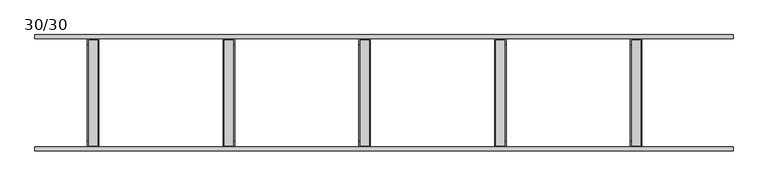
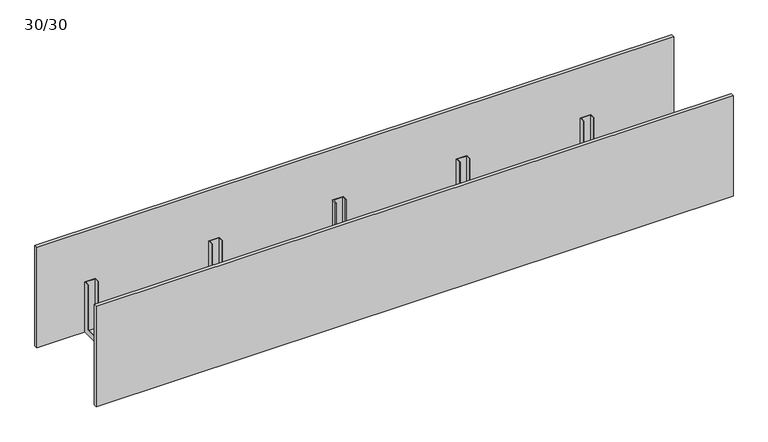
"""IFC4 building model written with IfcOpenShell, lengths in millimetres: proxy geometry, Betoring : 30/30."""

import ifcopenshell
import ifcopenshell.guid

model = None  # the IFC model being written
_history = None  # IfcOwnerHistory: only IFC2X3 demands one
_inside = {}  # id of a spatial element -> (the spatial element, [elements in it])
_under = {}  # id of a project, library or spatial element -> (it, [spatial elements below it])
_declared = {}  # id of a project -> (the project, [libraries it declares])
_typed = {}  # id of a type object -> (the type object, [elements of that type])
_made_of = {}  # id of a material, layer set ... -> (it, [elements and type objects made of it])


def new_model(schema):
    """Start an empty IFC model of exactly this schema.

    Asked for "IFC4X3", IfcOpenShell would pick the latest addendum, in which some entities
    have other attributes; the version numbers below select the first issue.
    IFC2X3 requires an IfcOwnerHistory on every rooted entity: one is made here for all.
    """
    global model, _history
    if schema == "IFC4X3":
        model = ifcopenshell.file(schema_version=(4, 3, 0, 0))
    else:
        model = ifcopenshell.file(schema=schema)
    _inside.clear()
    _under.clear()
    _declared.clear()
    _typed.clear()
    _made_of.clear()
    _history = None
    if model.schema == "IFC2X3":
        org = make("IfcOrganization", Name="unknown")
        user = make(
            "IfcPersonAndOrganization",
            ThePerson=make("IfcPerson", FamilyName="unknown"),
            TheOrganization=org,
        )
        app = make(
            "IfcApplication",
            ApplicationDeveloper=org,
            Version="unknown",
            ApplicationFullName="unknown",
            ApplicationIdentifier="unknown",
        )
        _history = make(
            "IfcOwnerHistory",
            OwningUser=user,
            OwningApplication=app,
            ChangeAction="ADDED",
            CreationDate=0,
        )
    return model


def make(cls, **values):
    """One entity of the class cls with the attributes given. An attribute that is None is left unset."""
    return model.create_entity(
        cls, **{name: value for name, value in values.items() if value is not None}
    )


def rooted(cls, **values):
    """An entity with a GlobalId (a new one), such as an element, a storey or a relation."""
    return make(cls, GlobalId=ifcopenshell.guid.new(), OwnerHistory=_history, **values)


def si_unit(unit_type, name, prefix=None):
    """IfcSIUnit, for example si_unit("LENGTHUNIT", "METRE", prefix="MILLI")."""
    return make("IfcSIUnit", UnitType=unit_type, Prefix=prefix, Name=name)


def assignment(units):
    """IfcUnitAssignment: the units of a project."""
    return None if units is None else make("IfcUnitAssignment", Units=units)


def point(xyz):
    """IfcCartesianPoint."""
    return None if xyz is None else make("IfcCartesianPoint", Coordinates=xyz)


def direction(xyz):
    """IfcDirection."""
    return None if xyz is None else make("IfcDirection", DirectionRatios=xyz)


def frame(location, z_axis=None, x_axis=None):
    """IfcAxis2Placement3D, a coordinate frame: its origin and axes. An axis left out is left unset."""
    return make(
        "IfcAxis2Placement3D",
        Location=point(location),
        Axis=direction(z_axis),
        RefDirection=direction(x_axis),
    )


def origin():
    """The frame at (0, 0, 0) with its axes left unset."""
    return frame((0.0, 0.0, 0.0))


def origin_with_axes():
    """The frame at (0, 0, 0) with the z axis (0, 0, 1) and the x axis (1, 0, 0) written out."""
    return frame((0.0, 0.0, 0.0), z_axis=(0.0, 0.0, 1.0), x_axis=(1.0, 0.0, 0.0))


def place(relative_to, where):
    """IfcLocalPlacement: puts the frame where relative to a parent placement (None: the world)."""
    return make(
        "IfcLocalPlacement", PlacementRelTo=relative_to, RelativePlacement=where
    )


def context(
    kind, dimensions, precision=None, world=None, true_north=None, identifier=None
):
    """IfcGeometricRepresentationContext, for example the 3D "Model" context."""
    return make(
        "IfcGeometricRepresentationContext",
        ContextIdentifier=identifier,
        ContextType=kind,
        CoordinateSpaceDimension=dimensions,
        Precision=precision,
        WorldCoordinateSystem=world,
        TrueNorth=true_north,
    )


def project(units=None, contexts=None):
    """IfcProject with its units and contexts."""
    return rooted(
        "IfcProject",
        Name="project",
        RepresentationContexts=contexts,
        UnitsInContext=assignment(units),
    )


def spatial(cls, under=None, at=None, **own):
    """A site, building, storey or space (cls), placed at a placement, below another one or the project."""
    s = rooted(cls, ObjectPlacement=at, **own)
    if under is not None:
        _under.setdefault(under.id(), (under, []))[1].append(s)
    return s


def polyline(points):
    """IfcPolyline through the points."""
    return make("IfcPolyline", Points=[point(p) for p in points])


def outline(outer, holes=None, kind="AREA"):
    """IfcArbitraryClosedProfileDef: a profile drawn as a closed curve; with holes, ...WithVoids."""
    if holes is None:
        return make("IfcArbitraryClosedProfileDef", ProfileType=kind, OuterCurve=outer)
    return make(
        "IfcArbitraryProfileDefWithVoids",
        ProfileType=kind,
        OuterCurve=outer,
        InnerCurves=holes,
    )


def extrude(swept, where, along, depth):
    """IfcExtrudedAreaSolid: the profile swept, set in the frame where, extruded along a direction by depth."""
    return make(
        "IfcExtrudedAreaSolid",
        SweptArea=swept,
        Position=where,
        ExtrudedDirection=direction(along),
        Depth=depth,
    )


def faces_of(points, faces, orient=None, outer=None):
    """IfcFace entities. A face is a list of loops; a loop is a list of indices into points, from 0.

    orient and outer hold one flag for each loop. By default every Orientation is true, the
    first loop of a face is its IfcFaceOuterBound and the others are IfcFaceBound.
    """
    made = []
    for i, loops in enumerate(faces):
        bounds = []
        for j, loop in enumerate(loops):
            is_outer = j == 0 if outer is None else outer[i][j]
            bounds.append(
                make(
                    "IfcFaceOuterBound" if is_outer else "IfcFaceBound",
                    Bound=make("IfcPolyLoop", Polygon=[points[k] for k in loop]),
                    Orientation=True if orient is None else orient[i][j],
                )
            )
        made.append(make("IfcFace", Bounds=bounds))
    return made


def faceted_brep(points, faces, orient=None, outer=None, voids=None):
    """IfcFacetedBrep: a solid bounded by flat faces; with voids (closed shells), ...WithVoids."""
    shared = [point(p) for p in points]
    hull = make("IfcClosedShell", CfsFaces=faces_of(shared, faces, orient, outer))
    if voids is None:
        return make("IfcFacetedBrep", Outer=hull)
    return make(
        "IfcFacetedBrepWithVoids",
        Outer=hull,
        Voids=[
            make(cls, CfsFaces=faces_of(shared, fs, o, b)) for cls, fs, o, b in voids
        ],
    )


def shape(context_of_items, identifier, shape_type, items):
    """IfcShapeRepresentation: the items that make up one representation, for example the "Body"."""
    return make(
        "IfcShapeRepresentation",
        ContextOfItems=context_of_items,
        RepresentationIdentifier=identifier,
        RepresentationType=shape_type,
        Items=items,
    )


def source(mapping_origin, context_of_items, identifier, shape_type, items):
    """IfcRepresentationMap: a shape defined once, which mapped items show again and again."""
    return make(
        "IfcRepresentationMap",
        MappingOrigin=mapping_origin,
        MappedRepresentation=shape(context_of_items, identifier, shape_type, items),
    )


def transform(
    local_origin,
    x_axis=None,
    y_axis=None,
    z_axis=None,
    scale=None,
    scale2=None,
    scale3=None,
    uniform=True,
):
    """IfcCartesianTransformationOperator3D, or its non-uniform kind. x_axis, y_axis, z_axis: its Axis1, 2, 3."""
    if uniform:
        return make(
            "IfcCartesianTransformationOperator3D",
            Axis1=direction(x_axis),
            Axis2=direction(y_axis),
            LocalOrigin=point(local_origin),
            Scale=scale,
            Axis3=direction(z_axis),
        )
    return make(
        "IfcCartesianTransformationOperator3DnonUniform",
        Axis1=direction(x_axis),
        Axis2=direction(y_axis),
        LocalOrigin=point(local_origin),
        Scale=scale,
        Axis3=direction(z_axis),
        Scale2=scale2,
        Scale3=scale3,
    )


def mapped(mapping_source, mapping_target):
    """IfcMappedItem: shows the shape of a source again, moved by a transform."""
    return make(
        "IfcMappedItem", MappingSource=mapping_source, MappingTarget=mapping_target
    )


def made_of(thing, what):
    """Note that an element or type object is made of a material, layer set ...; save() writes the relation."""
    if what is not None:
        _made_of.setdefault(what.id(), (what, []))[1].append(thing)
    return thing


def element(
    cls,
    number,
    at=None,
    inside=None,
    cuts=None,
    type_object=None,
    material=None,
    context=None,
    identifier="Body",
    shape_type=None,
    held_by="IfcProductDefinitionShape",
    body=None,
    shapes=None,
    **own,
):
    """One element of the class cls, such as IfcWall. Its Tag is "e" and its number.

    at: its placement. inside: the storey or other place that contains it. cuts: it is an
    opening in that element (IfcRelVoidsElement). A single representation is given by context,
    identifier, shape_type and body (its items); several are given by shapes. held_by: the class
    of the entity that holds the representations. save() writes the other relations.
    """
    e = rooted(cls, Tag="e%d" % number, ObjectPlacement=at, **own)
    if body is not None:
        shapes = [shape(context, identifier, shape_type, body)]
    if shapes is not None:
        e.Representation = make(held_by, Representations=shapes)
    if inside is not None:
        _inside.setdefault(inside.id(), (inside, []))[1].append(e)
    if cuts is not None:
        rooted(
            "IfcRelVoidsElement", RelatingBuildingElement=cuts, RelatedOpeningElement=e
        )
    if type_object is not None:
        _typed.setdefault(type_object.id(), (type_object, []))[1].append(e)
    return made_of(e, material)


def aggregate(whole, parts):
    """IfcRelAggregates: a whole, such as a stair, and the parts it consists of."""
    return rooted("IfcRelAggregates", RelatingObject=whole, RelatedObjects=parts)


def save(model, path):
    """Write the relations noted so far, then the file.

    IfcRelAggregates (storeys below a building ...), IfcRelContainedInSpatialStructure (elements
    in a storey), IfcRelDefinesByType, IfcRelAssociatesMaterial and IfcRelDeclares: one each for
    every whole, place, type object, material and project.
    """
    for whole, parts in _under.values():
        aggregate(whole, parts)
    for where, things in _inside.values():
        rooted(
            "IfcRelContainedInSpatialStructure",
            RelatedElements=things,
            RelatingStructure=where,
        )
    for kind, things in _typed.values():
        rooted("IfcRelDefinesByType", RelatedObjects=things, RelatingType=kind)
    for what, things in _made_of.values():
        rooted("IfcRelAssociatesMaterial", RelatedObjects=things, RelatingMaterial=what)
    for by, libraries in _declared.values():
        rooted("IfcRelDeclares", RelatingContext=by, RelatedDefinitions=libraries)
    model.write(path)


def proxy_30_30_b2d43016(model_context):
    return source(origin(), model_context, "Body", "SolidModel", [
        faceted_brep([(1535.0, 10.0, 150.0), (1565.0, 10.0, 150.0), (1565.0, 25.0, 150.0), (1563.0, 25.0, 150.0), (1563.0, 12.0, 150.0), (1537.0, 12.0, 150.0), (1537.0, 25.0, 150.0), (1535.0, 25.0, 150.0), (1535.0, 10.0, 0.0), (1565.0, 10.0, 0.0), (1565.0, 290.0, 0.0), (1565.0, 290.0, 150.0), (1565.0, 275.0, 150.0), (1565.0, 275.0, 15.0), (1565.0, 25.0, 15.0), (1563.0, 25.0, 15.0), (1563.0, 275.0, 15.0), (1563.0, 275.0, 150.0), (1563.0, 288.0, 150.0), (1563.0, 288.0, 2.0), (1563.0, 12.0, 2.0), (1537.0, 12.0, 2.0), (1537.0, 288.0, 2.0), (1537.0, 288.0, 150.0), (1537.0, 275.0, 150.0), (1537.0, 275.0, 15.0), (1537.0, 25.0, 15.0), (1535.0, 25.0, 15.0), (1535.0, 275.0, 15.0), (1535.0, 275.0, 150.0), (1535.0, 290.0, 150.0), (1535.0, 290.0, 0.0)], [[[0, 1, 2, 3, 4, 5, 6, 7]], [[1, 0, 8, 9]], [[2, 1, 9, 10, 11, 12, 13, 14]], [[3, 2, 14, 15]], [[4, 3, 15, 16, 17, 18, 19, 20]], [[5, 4, 20, 21]], [[6, 5, 21, 22, 23, 24, 25, 26]], [[7, 6, 26, 27]], [[0, 7, 27, 28, 29, 30, 31, 8]], [[9, 8, 31, 10]], [[15, 14, 13, 16]], [[21, 20, 19, 22]], [[27, 26, 25, 28]], [[30, 29, 24, 23, 18, 17, 12, 11]], [[10, 31, 30, 11]], [[16, 13, 12, 17]], [[22, 19, 18, 23]], [[28, 25, 24, 29]]]),
        faceted_brep([(1185.0, 10.0, 150.0), (1215.0, 10.0, 150.0), (1215.0, 25.0, 150.0), (1213.0, 25.0, 150.0), (1213.0, 12.0, 150.0), (1187.0, 12.0, 150.0), (1187.0, 25.0, 150.0), (1185.0, 25.0, 150.0), (1185.0, 10.0, 0.0), (1215.0, 10.0, 0.0), (1215.0, 290.0, 0.0), (1215.0, 290.0, 150.0), (1215.0, 275.0, 150.0), (1215.0, 275.0, 15.0), (1215.0, 25.0, 15.0), (1213.0, 25.0, 15.0), (1213.0, 275.0, 15.0), (1213.0, 275.0, 150.0), (1213.0, 288.0, 150.0), (1213.0, 288.0, 2.0), (1213.0, 12.0, 2.0), (1187.0, 12.0, 2.0), (1187.0, 288.0, 2.0), (1187.0, 288.0, 150.0), (1187.0, 275.0, 150.0), (1187.0, 275.0, 15.0), (1187.0, 25.0, 15.0), (1185.0, 25.0, 15.0), (1185.0, 275.0, 15.0), (1185.0, 275.0, 150.0), (1185.0, 290.0, 150.0), (1185.0, 290.0, 0.0)], [[[0, 1, 2, 3, 4, 5, 6, 7]], [[1, 0, 8, 9]], [[2, 1, 9, 10, 11, 12, 13, 14]], [[3, 2, 14, 15]], [[4, 3, 15, 16, 17, 18, 19, 20]], [[5, 4, 20, 21]], [[6, 5, 21, 22, 23, 24, 25, 26]], [[7, 6, 26, 27]], [[0, 7, 27, 28, 29, 30, 31, 8]], [[9, 8, 31, 10]], [[15, 14, 13, 16]], [[21, 20, 19, 22]], [[27, 26, 25, 28]], [[30, 29, 24, 23, 18, 17, 12, 11]], [[10, 31, 30, 11]], [[16, 13, 12, 17]], [[22, 19, 18, 23]], [[28, 25, 24, 29]]]),
        faceted_brep([(835.0, 10.0, 150.0), (865.0, 10.0, 150.0), (865.0, 25.0, 150.0), (863.0, 25.0, 150.0), (863.0, 12.0, 150.0), (837.0, 12.0, 150.0), (837.0, 25.0, 150.0), (835.0, 25.0, 150.0), (835.0, 10.0, 0.0), (865.0, 10.0, 0.0), (865.0, 290.0, 0.0), (865.0, 290.0, 150.0), (865.0, 275.0, 150.0), (865.0, 275.0, 15.0), (865.0, 25.0, 15.0), (863.0, 25.0, 15.0), (863.0, 275.0, 15.0), (863.0, 275.0, 150.0), (863.0, 288.0, 150.0), (863.0, 288.0, 2.0), (863.0, 12.0, 2.0), (837.0, 12.0, 2.0), (837.0, 288.0, 2.0), (837.0, 288.0, 150.0), (837.0, 275.0, 150.0), (837.0, 275.0, 15.0), (837.0, 25.0, 15.0), (835.0, 25.0, 15.0), (835.0, 275.0, 15.0), (835.0, 275.0, 150.0), (835.0, 290.0, 150.0), (835.0, 290.0, 0.0)], [[[0, 1, 2, 3, 4, 5, 6, 7]], [[1, 0, 8, 9]], [[2, 1, 9, 10, 11, 12, 13, 14]], [[3, 2, 14, 15]], [[4, 3, 15, 16, 17, 18, 19, 20]], [[5, 4, 20, 21]], [[6, 5, 21, 22, 23, 24, 25, 26]], [[7, 6, 26, 27]], [[0, 7, 27, 28, 29, 30, 31, 8]], [[9, 8, 31, 10]], [[15, 14, 13, 16]], [[21, 20, 19, 22]], [[27, 26, 25, 28]], [[30, 29, 24, 23, 18, 17, 12, 11]], [[10, 31, 30, 11]], [[16, 13, 12, 17]], [[22, 19, 18, 23]], [[28, 25, 24, 29]]]),
        faceted_brep([(485.0, 10.0, 150.0), (515.0, 10.0, 150.0), (515.0, 25.0, 150.0), (513.0, 25.0, 150.0), (513.0, 12.0, 150.0), (487.0, 12.0, 150.0), (487.0, 25.0, 150.0), (485.0, 25.0, 150.0), (485.0, 10.0, 0.0), (515.0, 10.0, 0.0), (515.0, 290.0, 0.0), (515.0, 290.0, 150.0), (515.0, 275.0, 150.0), (515.0, 275.0, 15.0), (515.0, 25.0, 15.0), (513.0, 25.0, 15.0), (513.0, 275.0, 15.0), (513.0, 275.0, 150.0), (513.0, 288.0, 150.0), (513.0, 288.0, 2.0), (513.0, 12.0, 2.0), (487.0, 12.0, 2.0), (487.0, 288.0, 2.0), (487.0, 288.0, 150.0), (487.0, 275.0, 150.0), (487.0, 275.0, 15.0), (487.0, 25.0, 15.0), (485.0, 25.0, 15.0), (485.0, 275.0, 15.0), (485.0, 275.0, 150.0), (485.0, 290.0, 150.0), (485.0, 290.0, 0.0)], [[[0, 1, 2, 3, 4, 5, 6, 7]], [[1, 0, 8, 9]], [[2, 1, 9, 10, 11, 12, 13, 14]], [[3, 2, 14, 15]], [[4, 3, 15, 16, 17, 18, 19, 20]], [[5, 4, 20, 21]], [[6, 5, 21, 22, 23, 24, 25, 26]], [[7, 6, 26, 27]], [[0, 7, 27, 28, 29, 30, 31, 8]], [[9, 8, 31, 10]], [[15, 14, 13, 16]], [[21, 20, 19, 22]], [[27, 26, 25, 28]], [[30, 29, 24, 23, 18, 17, 12, 11]], [[10, 31, 30, 11]], [[16, 13, 12, 17]], [[22, 19, 18, 23]], [[28, 25, 24, 29]]]),
        faceted_brep([(135.0, 10.0, 150.0), (165.0, 10.0, 150.0), (165.0, 25.0, 150.0), (163.0, 25.0, 150.0), (163.0, 12.0, 150.0), (137.0, 12.0, 150.0), (137.0, 25.0, 150.0), (135.0, 25.0, 150.0), (135.0, 10.0, 0.0), (165.0, 10.0, 0.0), (165.0, 290.0, 0.0), (165.0, 290.0, 150.0), (165.0, 275.0, 150.0), (165.0, 275.0, 15.0), (165.0, 25.0, 15.0), (163.0, 25.0, 15.0), (163.0, 275.0, 15.0), (163.0, 275.0, 150.0), (163.0, 288.0, 150.0), (163.0, 288.0, 2.0), (163.0, 12.0, 2.0), (137.0, 12.0, 2.0), (137.0, 288.0, 2.0), (137.0, 288.0, 150.0), (137.0, 275.0, 150.0), (137.0, 275.0, 15.0), (137.0, 25.0, 15.0), (135.0, 25.0, 15.0), (135.0, 275.0, 15.0), (135.0, 275.0, 150.0), (135.0, 290.0, 150.0), (135.0, 290.0, 0.0)], [[[0, 1, 2, 3, 4, 5, 6, 7]], [[1, 0, 8, 9]], [[2, 1, 9, 10, 11, 12, 13, 14]], [[3, 2, 14, 15]], [[4, 3, 15, 16, 17, 18, 19, 20]], [[5, 4, 20, 21]], [[6, 5, 21, 22, 23, 24, 25, 26]], [[7, 6, 26, 27]], [[0, 7, 27, 28, 29, 30, 31, 8]], [[9, 8, 31, 10]], [[15, 14, 13, 16]], [[21, 20, 19, 22]], [[27, 26, 25, 28]], [[30, 29, 24, 23, 18, 17, 12, 11]], [[10, 31, 30, 11]], [[16, 13, 12, 17]], [[22, 19, 18, 23]], [[28, 25, 24, 29]]]),
        extrude(outline(polyline([(1800.0, 10.0), (1800.0, 0.0), (0.0, 0.0), (0.0, 10.0), (1800.0, 10.0)])), origin_with_axes(), (0.0, 0.0, 1.0), 300.0),
        extrude(outline(polyline([(1800.0, 300.0), (1800.0, 290.0), (0.0, 290.0), (0.0, 300.0), (1800.0, 300.0)])), origin_with_axes(), (0.0, 0.0, 1.0), 300.0),
    ])


if __name__ == "__main__":
    model = new_model("IFC4")
    model_context = context("Model", 3, world=origin())
    ifc_project = project(units=[si_unit("LENGTHUNIT", "METRE", prefix="MILLI")], contexts=[model_context])
    site = spatial("IfcSite", under=ifc_project)
    building = spatial("IfcBuilding", under=site)
    placement = place(None, origin())
    proxy_30_30_shape = proxy_30_30_b2d43016(model_context)
    element("IfcBuildingElementProxy", 1, Name="Betoring : 30/30", ObjectType="Betoring : 30/30", at=placement, inside=building, context=model_context, shape_type="MappedRepresentation", body=[
        mapped(proxy_30_30_shape, transform((0.0, 0.0, 0.0), x_axis=(1.0, 0.0, 0.0), y_axis=(0.0, 1.0, 0.0), z_axis=(0.0, 0.0, 1.0))),
    ])
    save(model, "model.ifc")
